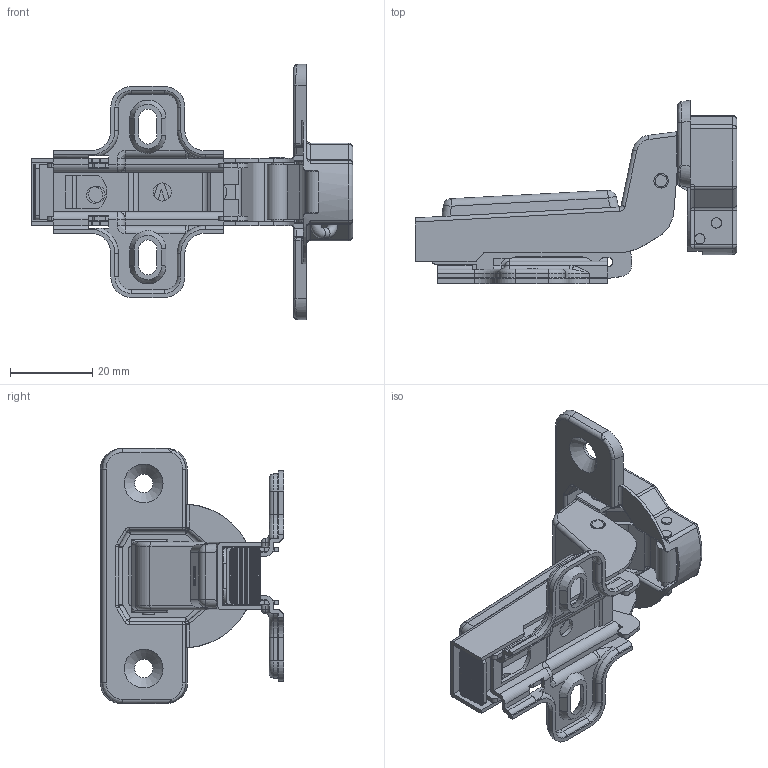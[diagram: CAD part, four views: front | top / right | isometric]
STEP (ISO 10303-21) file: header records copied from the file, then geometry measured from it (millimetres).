
FILE_DESCRIPTION(/* description */ (''),/* implementation_level */ '2;1');
FILE_NAME(/* name */ 'W:\R&D\pub\Katalog techniczny\bryły 3D\ZP-COCA7450-BE.stp',/* time_stamp */ '2016-09-14T09:57:25+02:00',/* author */ ('tomaszw'),/* organization */ (''),/* preprocessor_version */ 'ST-DEVELOPER v16.1',/* originating_system */ 'Autodesk Inventor 2016',/* authorisation */ '');
FILE_SCHEMA (('AUTOMOTIVE_DESIGN { 1 0 10303 214 3 1 1 }'));
Length unit declared in the file: millimetre
Products named in the file (14): ZP-COCA450_2; ZP-COCA450_3; ZP-COCA450_4; ZP-COCA450_P; ZP-COCA450_5; ZP-COCA450_6; ZP-COCA450_pin1; ZP-COCA450_pin2; ZP-COCA450_pinx2; WR; WM; ZP-COCA7450_1; ZP-PO_pok; ZP-COCA(MU)450(2)-BE(ZE)
Assembly tree (13 placements, depth 2):
  ZP-COCA(MU)450(2)-BE(ZE)
    ZP-COCA450_2
    ZP-COCA450_3
    ZP-COCA450_4
    ZP-COCA450_P
    ZP-COCA450_5
    ZP-COCA450_6
    ZP-COCA450_pin1
    ZP-COCA450_pin2
    ZP-COCA450_pinx2
    WR
    WM
    ZP-COCA7450_1
    ZP-PO_pok
Bounding box: 78.15 x 44.53 x 62 mm (x, y, z)
Volume: 10609.8 mm3; surface area: 24784.4 mm2
Topology: 13 solids, 13 shells, 1089 faces, 2882 edges, 1802 vertices
Faces by surface type: cylinder 428, plane 426, bspline 103, torus 82, sphere 30, cone 20
Full cylindrical faces by diameter (mm): 2.5 x9, 2.9 x2, 3 x2, 3.171 x2, 3.5 x2, 3.52 x2, 4 x2, 4.4 x1, 4.5 x2, 5.9 x2, 6 x2, 8 x1
Entity records: 37983 total; most frequent: CARTESIAN_POINT 10070, ORIENTED_EDGE 5634, DIRECTION 5612, EDGE_CURVE 2817, AXIS2_PLACEMENT_3D 2047, VERTEX_POINT 1790, LINE 1518, VECTOR 1518
